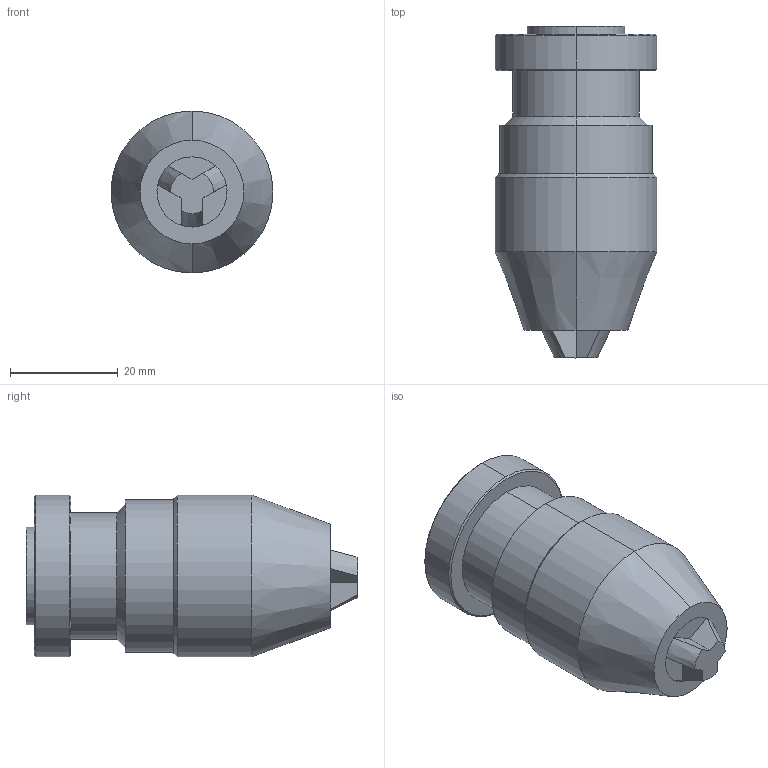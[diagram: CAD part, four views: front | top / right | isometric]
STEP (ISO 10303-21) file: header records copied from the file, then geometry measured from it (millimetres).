
FILE_DESCRIPTION (( 'STEP AP203' ), '1' );
FILE_NAME ('041J004005 Precision chuck Albrecht, B10, 0-5 mm.STEP', '2009-09-03T14:01:36', ( 'HP' ), ( '' ), 'SwSTEP 2.0', 'SolidWorks 2008', '' );
FILE_SCHEMA (( 'CONFIG_CONTROL_DESIGN' ));
Length unit declared in the file: millimetre
Products named in the file (1): 041J004005 Precision chuck Albrecht, B10, 0-5 mm
Bounding box: 30 x 61.5 x 30 mm (x, y, z)
Volume: 31352.8 mm3; surface area: 6948.5 mm2
Topology: 1 solids, 1 shells, 46 faces, 98 edges, 60 vertices
Faces by surface type: plane 17, cylinder 16, cone 13
Entity records: 1337 total; most frequent: CARTESIAN_POINT 235, DIRECTION 234, ORIENTED_EDGE 196, EDGE_CURVE 98, AXIS2_PLACEMENT_3D 95, VERTEX_POINT 60, EDGE_LOOP 52, CIRCLE 48
